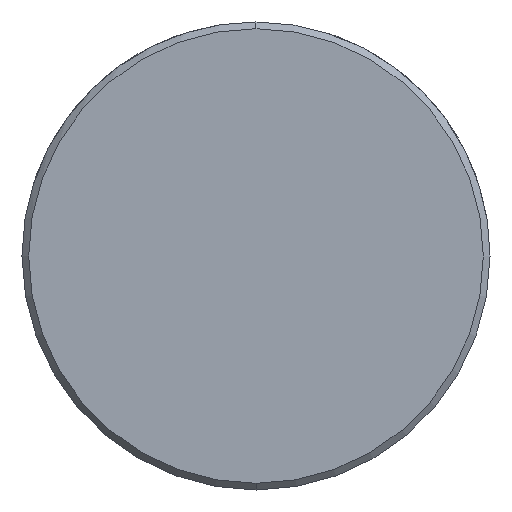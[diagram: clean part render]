
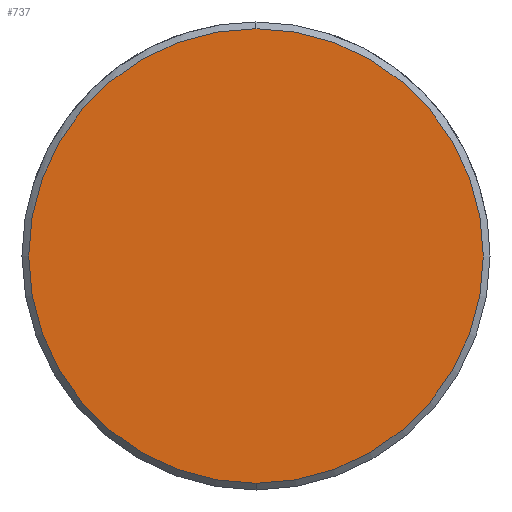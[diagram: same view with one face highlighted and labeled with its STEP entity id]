
A CAD part, left-side view. The second image highlights one B-rep face of the part: STEP entity #737.
In plain terms, the highlighted planar face has unit normal (-1, 0, 0).
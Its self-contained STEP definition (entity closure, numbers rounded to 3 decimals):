
#669=CARTESIAN_POINT('Vertex',(0.,0.,-10.2)) ;
#672=CARTESIAN_POINT('Axis2P3D Location',(0.,0.,0.)) ;
#676=CARTESIAN_POINT('Vertex',(0.,10.2,0.)) ;
#679=CARTESIAN_POINT('Axis2P3D Location',(0.,0.,0.)) ;
#683=CARTESIAN_POINT('Vertex',(0.,0.,10.2)) ;
#705=CARTESIAN_POINT('Axis2P3D Location',(0.,0.,0.)) ;
#709=CARTESIAN_POINT('Vertex',(0.,-10.2,0.)) ;
#712=CARTESIAN_POINT('Axis2P3D Location',(0.,0.,0.)) ;
#726=CARTESIAN_POINT('Axis2P3D Location',(0.,0.,0.)) ;
#673=DIRECTION('Axis2P3D Direction',(1.,0.,-0.)) ;
#680=DIRECTION('Axis2P3D Direction',(1.,0.,-0.)) ;
#706=DIRECTION('Axis2P3D Direction',(1.,0.,-0.)) ;
#713=DIRECTION('Axis2P3D Direction',(1.,0.,-0.)) ;
#727=DIRECTION('Axis2P3D Direction',(1.,0.,-0.)) ;
#728=DIRECTION('Axis2P3D XDirection',(-0.,0.,-1.)) ;
#674=AXIS2_PLACEMENT_3D('Circle Axis2P3D',#672,#673,$) ;
#681=AXIS2_PLACEMENT_3D('Circle Axis2P3D',#679,#680,$) ;
#707=AXIS2_PLACEMENT_3D('Circle Axis2P3D',#705,#706,$) ;
#714=AXIS2_PLACEMENT_3D('Circle Axis2P3D',#712,#713,$) ;
#729=AXIS2_PLACEMENT_3D('Plane Axis2P3D',#726,#727,#728) ;
#732=ORIENTED_EDGE('',*,*,#678,.F.) ;
#733=ORIENTED_EDGE('',*,*,#716,.F.) ;
#734=ORIENTED_EDGE('',*,*,#711,.F.) ;
#735=ORIENTED_EDGE('',*,*,#685,.F.) ;
#737=ADVANCED_FACE('549-18X120',(#736),#730,.F.) ;
#675=CIRCLE('generated circle',#674,10.2) ;
#682=CIRCLE('generated circle',#681,10.2) ;
#708=CIRCLE('generated circle',#707,10.2) ;
#715=CIRCLE('generated circle',#714,10.2) ;
#678=EDGE_CURVE('',#670,#677,#675,.T.) ;
#685=EDGE_CURVE('',#677,#684,#682,.T.) ;
#711=EDGE_CURVE('',#684,#710,#708,.T.) ;
#716=EDGE_CURVE('',#710,#670,#715,.T.) ;
#731=EDGE_LOOP('',(#732,#733,#734,#735)) ;
#736=FACE_OUTER_BOUND('',#731,.T.) ;
#730=PLANE('Plane',#729) ;
#670=VERTEX_POINT('',#669) ;
#677=VERTEX_POINT('',#676) ;
#684=VERTEX_POINT('',#683) ;
#710=VERTEX_POINT('',#709) ;
